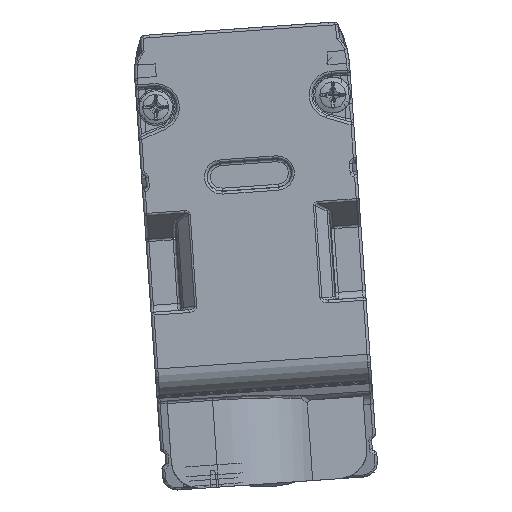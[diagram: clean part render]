
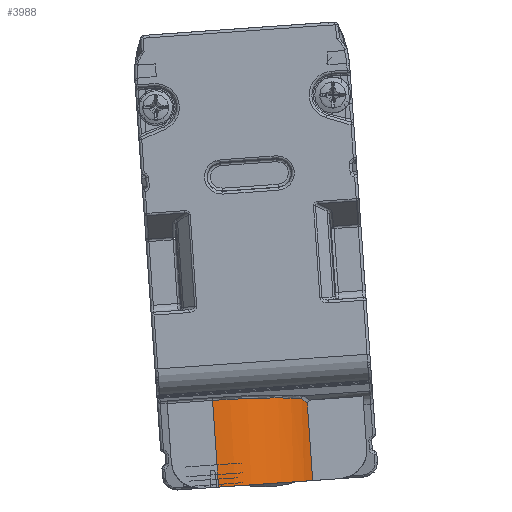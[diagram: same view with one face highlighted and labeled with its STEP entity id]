
A CAD part, front view. The second image highlights one B-rep face of the part: STEP entity #3988.
In plain terms, the highlighted cylindrical face has radius 7.5 mm (diameter 15 mm), a partial arc.
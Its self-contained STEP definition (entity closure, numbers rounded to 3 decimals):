
#295=ELLIPSE('',#22522,7.53,7.5);
#607=B_SPLINE_CURVE_WITH_KNOTS('',3,(#41441,#41442,#41443,#41444,#41445,
#41446,#41447),.UNSPECIFIED.,.F.,.F.,(4,3,4),(0.,0.485,1.),.UNSPECIFIED.);
#1505=CYLINDRICAL_SURFACE('',#22524,7.5);
#2948=CIRCLE('',#22523,7.5);
#3988=ADVANCED_FACE('',(#5224),#1505,.T.);
#5224=FACE_OUTER_BOUND('',#6286,.T.);
#6286=EDGE_LOOP('',(#11137,#11138,#11139,#11140,#11141));
#11137=ORIENTED_EDGE('',*,*,#16974,.T.);
#11138=ORIENTED_EDGE('',*,*,#16975,.T.);
#11139=ORIENTED_EDGE('',*,*,#16976,.T.);
#11140=ORIENTED_EDGE('',*,*,#16977,.T.);
#11141=ORIENTED_EDGE('',*,*,#16978,.F.);
#13774=VERTEX_POINT('',#41439);
#13775=VERTEX_POINT('',#41440);
#13776=VERTEX_POINT('',#41448);
#13777=VERTEX_POINT('',#41450);
#13778=VERTEX_POINT('',#41452);
#16974=EDGE_CURVE('',#13774,#13775,#18652,.T.);
#16975=EDGE_CURVE('',#13775,#13776,#607,.T.);
#16976=EDGE_CURVE('',#13776,#13777,#295,.T.);
#16977=EDGE_CURVE('',#13777,#13778,#18653,.T.);
#16978=EDGE_CURVE('',#13774,#13778,#2948,.T.);
#18652=LINE('',#41438,#20140);
#18653=LINE('',#41451,#20141);
#20140=VECTOR('',#28319,1.);
#20141=VECTOR('',#28322,1.);
#22522=AXIS2_PLACEMENT_3D('',#41449,#28320,#28321);
#22523=AXIS2_PLACEMENT_3D('',#41453,#28323,#28324);
#22524=AXIS2_PLACEMENT_3D('',#41454,#28325,#28326);
#28319=DIRECTION('',(-0.07,0.,0.998));
#28320=DIRECTION('',(0.069,-0.089,-0.994));
#28321=DIRECTION('',(0.006,0.996,-0.089));
#28322=DIRECTION('',(0.07,0.,-0.998));
#28323=DIRECTION('',(0.07,0.,-0.998));
#28324=DIRECTION('',(0.998,0.,0.07));
#28325=DIRECTION('',(0.07,0.,-0.998));
#28326=DIRECTION('',(0.,-1.,0.));
#41438=CARTESIAN_POINT('',(-40.701,-1010.597,14.888));
#41439=CARTESIAN_POINT('',(-40.701,-1010.597,14.888));
#41440=CARTESIAN_POINT('',(-41.088,-1010.597,20.435));
#41441=CARTESIAN_POINT('',(-41.088,-1010.597,20.435));
#41442=CARTESIAN_POINT('',(-41.139,-1010.686,20.528));
#41443=CARTESIAN_POINT('',(-41.198,-1010.793,20.603));
#41444=CARTESIAN_POINT('',(-41.263,-1010.905,20.654));
#41445=CARTESIAN_POINT('',(-41.332,-1011.024,20.708));
#41446=CARTESIAN_POINT('',(-41.408,-1011.152,20.738));
#41447=CARTESIAN_POINT('',(-41.487,-1011.278,20.743));
#41448=CARTESIAN_POINT('',(-41.487,-1011.278,20.743));
#41449=CARTESIAN_POINT('',(-47.816,-1007.318,19.944));
#41450=CARTESIAN_POINT('',(-47.863,-1014.818,20.616));
#41451=CARTESIAN_POINT('',(-47.667,-1014.818,17.815));
#41452=CARTESIAN_POINT('',(-47.43,-1014.818,14.418));
#41453=CARTESIAN_POINT('',(-47.43,-1007.318,14.418));
#41454=CARTESIAN_POINT('',(-52.434,-1007.318,85.982));
